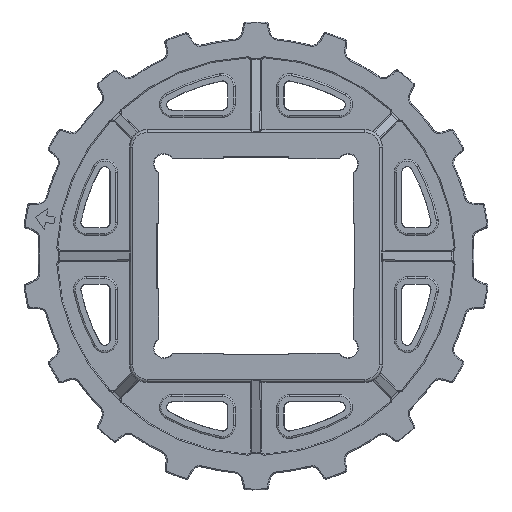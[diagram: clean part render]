
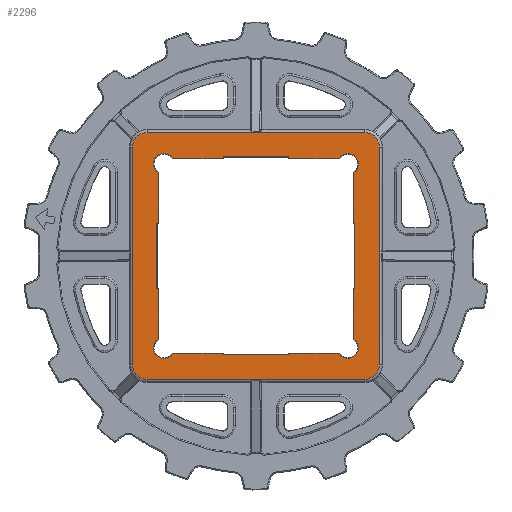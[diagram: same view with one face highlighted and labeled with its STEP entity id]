
A CAD part, top view. The second image highlights one B-rep face of the part: STEP entity #2296.
In plain terms, the highlighted planar face has unit normal (0, 0, 1).
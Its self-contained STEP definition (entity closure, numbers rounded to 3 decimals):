
#2005=PLANE('',#21677);
#2219=FACE_BOUND('',#5224,.T.);
#2220=FACE_BOUND('',#5225,.T.);
#2296=ADVANCED_FACE('',(#2219,#2220),#2005,.T.);
#5224=EDGE_LOOP('',(#8068,#8069,#8070,#8071,#8072,#8073,#8074,#8075));
#5225=EDGE_LOOP('',(#8076,#8077,#8078,#8079,#8080,#8081,#8082,#8083,#8084,
#8085,#8086,#8087,#8088,#8089,#8090,#8091,#8092,#8093,#8094,#8095,#8096,
#8097,#8098,#8099));
#6648=CIRCLE('',#21669,4.541);
#6649=CIRCLE('',#21670,4.541);
#6650=CIRCLE('',#21671,4.541);
#6651=CIRCLE('',#21672,4.541);
#6652=CIRCLE('',#21673,3.233);
#6653=CIRCLE('',#21674,3.233);
#6654=CIRCLE('',#21675,3.233);
#6655=CIRCLE('',#21676,3.233);
#8068=ORIENTED_EDGE('',*,*,#16536,.T.);
#8069=ORIENTED_EDGE('',*,*,#16537,.T.);
#8070=ORIENTED_EDGE('',*,*,#16538,.F.);
#8071=ORIENTED_EDGE('',*,*,#16539,.T.);
#8072=ORIENTED_EDGE('',*,*,#16540,.T.);
#8073=ORIENTED_EDGE('',*,*,#16541,.F.);
#8074=ORIENTED_EDGE('',*,*,#16542,.F.);
#8075=ORIENTED_EDGE('',*,*,#16543,.T.);
#8076=ORIENTED_EDGE('',*,*,#16544,.T.);
#8077=ORIENTED_EDGE('',*,*,#16545,.T.);
#8078=ORIENTED_EDGE('',*,*,#16546,.F.);
#8079=ORIENTED_EDGE('',*,*,#16547,.F.);
#8080=ORIENTED_EDGE('',*,*,#16548,.F.);
#8081=ORIENTED_EDGE('',*,*,#16549,.T.);
#8082=ORIENTED_EDGE('',*,*,#16550,.T.);
#8083=ORIENTED_EDGE('',*,*,#16551,.T.);
#8084=ORIENTED_EDGE('',*,*,#16552,.T.);
#8085=ORIENTED_EDGE('',*,*,#16553,.F.);
#8086=ORIENTED_EDGE('',*,*,#16554,.F.);
#8087=ORIENTED_EDGE('',*,*,#16555,.T.);
#8088=ORIENTED_EDGE('',*,*,#16556,.T.);
#8089=ORIENTED_EDGE('',*,*,#16557,.T.);
#8090=ORIENTED_EDGE('',*,*,#16558,.F.);
#8091=ORIENTED_EDGE('',*,*,#16559,.F.);
#8092=ORIENTED_EDGE('',*,*,#16560,.F.);
#8093=ORIENTED_EDGE('',*,*,#16561,.F.);
#8094=ORIENTED_EDGE('',*,*,#16562,.T.);
#8095=ORIENTED_EDGE('',*,*,#16563,.T.);
#8096=ORIENTED_EDGE('',*,*,#16564,.T.);
#8097=ORIENTED_EDGE('',*,*,#16565,.F.);
#8098=ORIENTED_EDGE('',*,*,#16566,.F.);
#8099=ORIENTED_EDGE('',*,*,#16567,.T.);
#14620=VERTEX_POINT('',#29931);
#14621=VERTEX_POINT('',#29932);
#14622=VERTEX_POINT('',#29934);
#14623=VERTEX_POINT('',#29936);
#14624=VERTEX_POINT('',#29938);
#14625=VERTEX_POINT('',#29940);
#14626=VERTEX_POINT('',#29942);
#14627=VERTEX_POINT('',#29944);
#14628=VERTEX_POINT('',#29947);
#14629=VERTEX_POINT('',#29948);
#14630=VERTEX_POINT('',#29950);
#14631=VERTEX_POINT('',#29952);
#14632=VERTEX_POINT('',#29954);
#14633=VERTEX_POINT('',#29956);
#14634=VERTEX_POINT('',#29958);
#14635=VERTEX_POINT('',#29960);
#14636=VERTEX_POINT('',#29962);
#14637=VERTEX_POINT('',#29964);
#14638=VERTEX_POINT('',#29966);
#14639=VERTEX_POINT('',#29968);
#14640=VERTEX_POINT('',#29970);
#14641=VERTEX_POINT('',#29972);
#14642=VERTEX_POINT('',#29974);
#14643=VERTEX_POINT('',#29976);
#14644=VERTEX_POINT('',#29978);
#14645=VERTEX_POINT('',#29980);
#14646=VERTEX_POINT('',#29982);
#14647=VERTEX_POINT('',#29984);
#14648=VERTEX_POINT('',#29986);
#14649=VERTEX_POINT('',#29988);
#14650=VERTEX_POINT('',#29990);
#14651=VERTEX_POINT('',#29992);
#16536=EDGE_CURVE('',#14620,#14621,#6648,.T.);
#16537=EDGE_CURVE('',#14621,#14622,#19808,.T.);
#16538=EDGE_CURVE('',#14623,#14622,#6649,.T.);
#16539=EDGE_CURVE('',#14623,#14624,#19809,.T.);
#16540=EDGE_CURVE('',#14624,#14625,#6650,.T.);
#16541=EDGE_CURVE('',#14626,#14625,#19810,.T.);
#16542=EDGE_CURVE('',#14627,#14626,#6651,.T.);
#16543=EDGE_CURVE('',#14627,#14620,#19811,.T.);
#16544=EDGE_CURVE('',#14628,#14629,#19812,.T.);
#16545=EDGE_CURVE('',#14629,#14630,#19813,.T.);
#16546=EDGE_CURVE('',#14631,#14630,#6652,.T.);
#16547=EDGE_CURVE('',#14632,#14631,#19814,.T.);
#16548=EDGE_CURVE('',#14633,#14632,#19815,.T.);
#16549=EDGE_CURVE('',#14633,#14634,#19816,.T.);
#16550=EDGE_CURVE('',#14634,#14635,#19817,.T.);
#16551=EDGE_CURVE('',#14635,#14636,#19818,.T.);
#16552=EDGE_CURVE('',#14636,#14637,#6653,.T.);
#16553=EDGE_CURVE('',#14638,#14637,#19819,.T.);
#16554=EDGE_CURVE('',#14639,#14638,#19820,.T.);
#16555=EDGE_CURVE('',#14639,#14640,#19821,.T.);
#16556=EDGE_CURVE('',#14640,#14641,#19822,.T.);
#16557=EDGE_CURVE('',#14641,#14642,#19823,.T.);
#16558=EDGE_CURVE('',#14643,#14642,#6654,.T.);
#16559=EDGE_CURVE('',#14644,#14643,#19824,.T.);
#16560=EDGE_CURVE('',#14645,#14644,#19825,.T.);
#16561=EDGE_CURVE('',#14646,#14645,#19826,.T.);
#16562=EDGE_CURVE('',#14646,#14647,#19827,.T.);
#16563=EDGE_CURVE('',#14647,#14648,#19828,.T.);
#16564=EDGE_CURVE('',#14648,#14649,#6655,.T.);
#16565=EDGE_CURVE('',#14650,#14649,#19829,.T.);
#16566=EDGE_CURVE('',#14651,#14650,#19830,.T.);
#16567=EDGE_CURVE('',#14651,#14628,#19831,.T.);
#19808=LINE('',#29933,#20737);
#19809=LINE('',#29937,#20738);
#19810=LINE('',#29941,#20739);
#19811=LINE('',#29945,#20740);
#19812=LINE('',#29946,#20741);
#19813=LINE('',#29949,#20742);
#19814=LINE('',#29953,#20743);
#19815=LINE('',#29955,#20744);
#19816=LINE('',#29957,#20745);
#19817=LINE('',#29959,#20746);
#19818=LINE('',#29961,#20747);
#19819=LINE('',#29965,#20748);
#19820=LINE('',#29967,#20749);
#19821=LINE('',#29969,#20750);
#19822=LINE('',#29971,#20751);
#19823=LINE('',#29973,#20752);
#19824=LINE('',#29977,#20753);
#19825=LINE('',#29979,#20754);
#19826=LINE('',#29981,#20755);
#19827=LINE('',#29983,#20756);
#19828=LINE('',#29985,#20757);
#19829=LINE('',#29989,#20758);
#19830=LINE('',#29991,#20759);
#19831=LINE('',#29993,#20760);
#20737=VECTOR('',#24122,1.);
#20738=VECTOR('',#24125,1.);
#20739=VECTOR('',#24128,1.);
#20740=VECTOR('',#24131,1.);
#20741=VECTOR('',#24132,1.);
#20742=VECTOR('',#24133,1.);
#20743=VECTOR('',#24136,1.);
#20744=VECTOR('',#24137,1.);
#20745=VECTOR('',#24138,1.);
#20746=VECTOR('',#24139,1.);
#20747=VECTOR('',#24140,1.);
#20748=VECTOR('',#24143,1.);
#20749=VECTOR('',#24144,1.);
#20750=VECTOR('',#24145,1.);
#20751=VECTOR('',#24146,1.);
#20752=VECTOR('',#24147,1.);
#20753=VECTOR('',#24150,1.);
#20754=VECTOR('',#24151,1.);
#20755=VECTOR('',#24152,1.);
#20756=VECTOR('',#24153,1.);
#20757=VECTOR('',#24154,1.);
#20758=VECTOR('',#24157,1.);
#20759=VECTOR('',#24158,1.);
#20760=VECTOR('',#24159,1.);
#21669=AXIS2_PLACEMENT_3D('',#29930,#24120,#24121);
#21670=AXIS2_PLACEMENT_3D('',#29935,#24123,#24124);
#21671=AXIS2_PLACEMENT_3D('',#29939,#24126,#24127);
#21672=AXIS2_PLACEMENT_3D('',#29943,#24129,#24130);
#21673=AXIS2_PLACEMENT_3D('',#29951,#24134,#24135);
#21674=AXIS2_PLACEMENT_3D('',#29963,#24141,#24142);
#21675=AXIS2_PLACEMENT_3D('',#29975,#24148,#24149);
#21676=AXIS2_PLACEMENT_3D('',#29987,#24155,#24156);
#21677=AXIS2_PLACEMENT_3D('',#29994,#24160,#24161);
#24120=DIRECTION('',(0.,0.,1.));
#24121=DIRECTION('',(0.,1.,0.));
#24122=DIRECTION('',(0.,-1.,0.));
#24123=DIRECTION('',(0.,0.,-1.));
#24124=DIRECTION('',(0.,-1.,0.));
#24125=DIRECTION('',(1.,0.,0.));
#24126=DIRECTION('',(0.,0.,1.));
#24127=DIRECTION('',(0.,-1.,0.));
#24128=DIRECTION('',(0.,-1.,0.));
#24129=DIRECTION('',(0.,0.,-1.));
#24130=DIRECTION('',(0.,1.,0.));
#24131=DIRECTION('',(-1.,0.,0.));
#24132=DIRECTION('',(0.,1.,0.));
#24133=DIRECTION('',(-1.,0.,0.));
#24134=DIRECTION('',(0.,0.,1.));
#24135=DIRECTION('',(-0.545,0.839,0.));
#24136=DIRECTION('',(0.,-1.,0.));
#24137=DIRECTION('',(1.,0.,0.));
#24138=DIRECTION('',(0.,1.,0.));
#24139=DIRECTION('',(1.,0.,0.));
#24140=DIRECTION('',(0.,1.,0.));
#24141=DIRECTION('',(0.,0.,-1.));
#24142=DIRECTION('',(-0.545,-0.839,0.));
#24143=DIRECTION('',(-1.,0.,0.));
#24144=DIRECTION('',(0.,-1.,0.));
#24145=DIRECTION('',(1.,0.,0.));
#24146=DIRECTION('',(0.,-1.,0.));
#24147=DIRECTION('',(1.,0.,0.));
#24148=DIRECTION('',(0.,0.,1.));
#24149=DIRECTION('',(0.545,-0.839,0.));
#24150=DIRECTION('',(0.,1.,0.));
#24151=DIRECTION('',(-1.,0.,0.));
#24152=DIRECTION('',(0.,1.,0.));
#24153=DIRECTION('',(-1.,0.,0.));
#24154=DIRECTION('',(0.,-1.,0.));
#24155=DIRECTION('',(0.,0.,-1.));
#24156=DIRECTION('',(0.545,0.839,0.));
#24157=DIRECTION('',(1.,0.,0.));
#24158=DIRECTION('',(0.,1.,0.));
#24159=DIRECTION('',(-1.,0.,0.));
#24160=DIRECTION('',(0.,0.,1.));
#24161=DIRECTION('',(0.,-1.,0.));
#29930=CARTESIAN_POINT('',(-34.05,34.05,12.4));
#29931=CARTESIAN_POINT('',(-34.05,38.591,12.4));
#29932=CARTESIAN_POINT('',(-38.591,34.05,12.4));
#29933=CARTESIAN_POINT('',(-38.591,34.05,12.4));
#29934=CARTESIAN_POINT('',(-38.591,-34.05,12.4));
#29935=CARTESIAN_POINT('',(-34.05,-34.05,12.4));
#29936=CARTESIAN_POINT('',(-34.05,-38.591,12.4));
#29937=CARTESIAN_POINT('',(-34.05,-38.591,12.4));
#29938=CARTESIAN_POINT('',(34.05,-38.591,12.4));
#29939=CARTESIAN_POINT('',(34.05,-34.05,12.4));
#29940=CARTESIAN_POINT('',(38.591,-34.05,12.4));
#29941=CARTESIAN_POINT('',(38.591,34.05,12.4));
#29942=CARTESIAN_POINT('',(38.591,34.05,12.4));
#29943=CARTESIAN_POINT('',(34.05,34.05,12.4));
#29944=CARTESIAN_POINT('',(34.05,38.591,12.4));
#29945=CARTESIAN_POINT('',(34.05,38.591,12.4));
#29946=CARTESIAN_POINT('',(-10.2,-30.958,12.4));
#29947=CARTESIAN_POINT('',(-10.2,-30.958,12.4));
#29948=CARTESIAN_POINT('',(-10.2,-30.558,12.4));
#29949=CARTESIAN_POINT('',(-10.2,-30.558,12.4));
#29950=CARTESIAN_POINT('',(-26.086,-30.558,12.4));
#29951=CARTESIAN_POINT('',(-28.797,-28.797,12.4));
#29952=CARTESIAN_POINT('',(-30.558,-26.086,12.4));
#29953=CARTESIAN_POINT('',(-30.558,-10.2,12.4));
#29954=CARTESIAN_POINT('',(-30.558,-10.2,12.4));
#29955=CARTESIAN_POINT('',(-30.958,-10.2,12.4));
#29956=CARTESIAN_POINT('',(-30.958,-10.2,12.4));
#29957=CARTESIAN_POINT('',(-30.958,-10.2,12.4));
#29958=CARTESIAN_POINT('',(-30.958,10.2,12.4));
#29959=CARTESIAN_POINT('',(-30.958,10.2,12.4));
#29960=CARTESIAN_POINT('',(-30.558,10.2,12.4));
#29961=CARTESIAN_POINT('',(-30.558,10.2,12.4));
#29962=CARTESIAN_POINT('',(-30.558,26.086,12.4));
#29963=CARTESIAN_POINT('',(-28.797,28.797,12.4));
#29964=CARTESIAN_POINT('',(-26.086,30.558,12.4));
#29965=CARTESIAN_POINT('',(-10.2,30.558,12.4));
#29966=CARTESIAN_POINT('',(-10.2,30.558,12.4));
#29967=CARTESIAN_POINT('',(-10.2,30.958,12.4));
#29968=CARTESIAN_POINT('',(-10.2,30.958,12.4));
#29969=CARTESIAN_POINT('',(-10.2,30.958,12.4));
#29970=CARTESIAN_POINT('',(10.2,30.958,12.4));
#29971=CARTESIAN_POINT('',(10.2,30.958,12.4));
#29972=CARTESIAN_POINT('',(10.2,30.558,12.4));
#29973=CARTESIAN_POINT('',(10.2,30.558,12.4));
#29974=CARTESIAN_POINT('',(26.086,30.558,12.4));
#29975=CARTESIAN_POINT('',(28.797,28.797,12.4));
#29976=CARTESIAN_POINT('',(30.558,26.086,12.4));
#29977=CARTESIAN_POINT('',(30.558,10.2,12.4));
#29978=CARTESIAN_POINT('',(30.558,10.2,12.4));
#29979=CARTESIAN_POINT('',(30.958,10.2,12.4));
#29980=CARTESIAN_POINT('',(30.958,10.2,12.4));
#29981=CARTESIAN_POINT('',(30.958,-10.2,12.4));
#29982=CARTESIAN_POINT('',(30.958,-10.2,12.4));
#29983=CARTESIAN_POINT('',(30.958,-10.2,12.4));
#29984=CARTESIAN_POINT('',(30.558,-10.2,12.4));
#29985=CARTESIAN_POINT('',(30.558,-10.2,12.4));
#29986=CARTESIAN_POINT('',(30.558,-26.086,12.4));
#29987=CARTESIAN_POINT('',(28.797,-28.797,12.4));
#29988=CARTESIAN_POINT('',(26.086,-30.558,12.4));
#29989=CARTESIAN_POINT('',(10.2,-30.558,12.4));
#29990=CARTESIAN_POINT('',(10.2,-30.558,12.4));
#29991=CARTESIAN_POINT('',(10.2,-30.958,12.4));
#29992=CARTESIAN_POINT('',(10.2,-30.958,12.4));
#29993=CARTESIAN_POINT('',(10.2,-30.958,12.4));
#29994=CARTESIAN_POINT('',(0.,0.,12.4));
